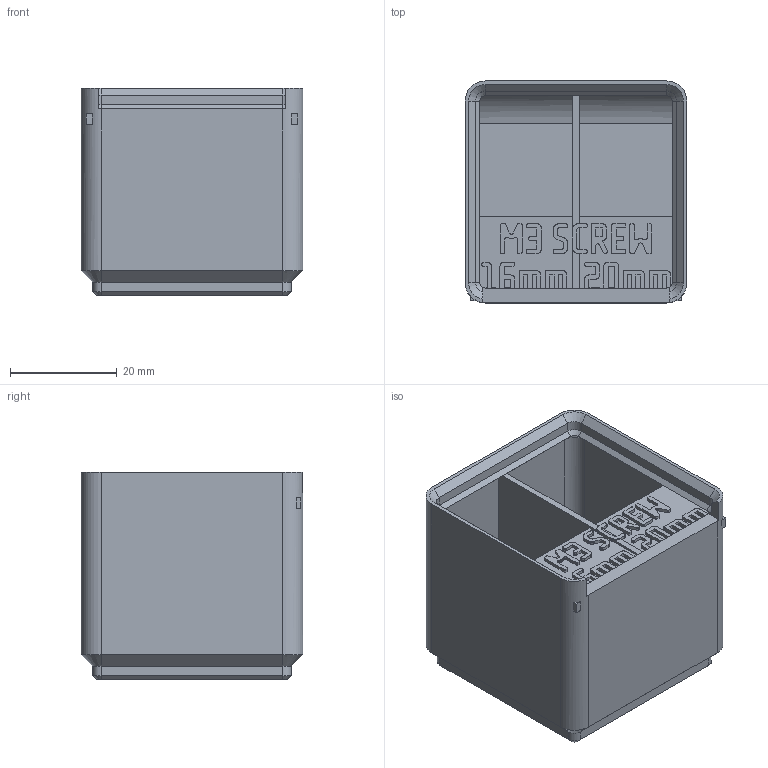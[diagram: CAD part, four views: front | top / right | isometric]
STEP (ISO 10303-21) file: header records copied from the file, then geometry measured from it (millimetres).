
FILE_DESCRIPTION(('Open CASCADE Model'),'2;1');
FILE_NAME('Open CASCADE Shape Model','2026-11-03T10:35:19',('Author'),( 'Open CASCADE'),'Open CASCADE STEP processor 8.0','build123d', 'Unknown');
FILE_SCHEMA(('AUTOMOTIVE_DESIGN { 1 0 10303 214 1 1 1 1 }'));
Products named in the file (1): COMPOUND
Bounding box: 41.5 x 41.5 x 38.9 mm (x, y, z)
Volume: 16983 mm3; surface area: 17578.2 mm2
Topology: 1 solids, 1 shells, 1631 faces, 4836 edges, 3208 vertices
Faces by surface type: plane 1593, cone 20, cylinder 18
Entity records: 112830 total; most frequent: CARTESIAN_POINT 23826, DIRECTION 13879, LINE 10431, VECTOR 10431, ORIENTED_EDGE 9672, PCURVE 9672, DEFINITIONAL_REPRESENTATION 9672, EDGE_CURVE 4836
